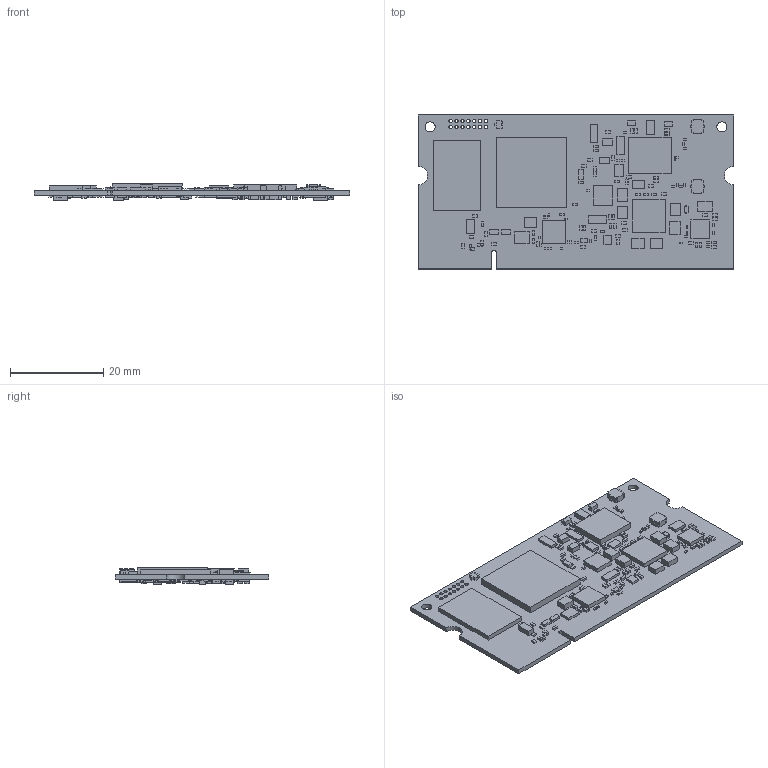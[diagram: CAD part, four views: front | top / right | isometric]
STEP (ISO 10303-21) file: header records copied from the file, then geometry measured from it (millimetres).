
FILE_DESCRIPTION(/* description */ (''),/* implementation_level */ '2;1');
FILE_NAME(/* name */ 'VAR-SOM-MX8MP-Rev2.0 v1.step',/* time_stamp */ '2024-08-19T17:37:12+03:00',/* author */ (''),/* organization */ (''),/* preprocessor_version */ 'ST-DEVELOPER v20',/* originating_system */ 'Autodesk Translation Framework v13.14.0.145',/* authorisation */ '');
FILE_SCHEMA (('AUTOMOTIVE_DESIGN { 1 0 10303 214 3 1 1 }'));
Products named in the file (434): VAR-SOM-MX8MP-Rev2.0; Pcb; Electrical; U30; U25; U28; Q7; Q5; Q4; Q2; Y2; Y1; J3; J2; L3; L2; L4; L7; L6; L8; L9; QZ1; TP5; C188; C187; U17; U19; U16; Q1; D2; D4; D6; D5; U11; U12; U8; RN7; RN1; RN5; RN4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
Assembly tree (433 placements, depth 3):
  VAR-SOM-MX8MP-Rev2.0
    Pcb
    Electrical
      U30
      U25
      U28
      Q7
      Q5
      Q4
      Q2
      Y2
      Y1
      J3
      J2
      L3
      L2
      L4
      L7
      L6
      L8
      L9
      QZ1
      TP5
      C188
      C187
      U17
      U19
      U16
      Q1
      D2
      D4
      D6
      D5
      U11
      U12
      U8
      RN7
      RN1
      RN5
      RN4
      RN8
      RN11
      RN12
      U14
      RN6
      RN9
      RN13
      RN14
      RN16
      RN17
      RN19
      U4
      U5
      C91
      C131
      C133
      C70
      C130
      C78
      C79
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Bounding box: 67.6 x 32.99 x 3.59 mm (x, y, z)
Volume: 3303.8 mm3; surface area: 7988.7 mm2
Topology: 395 solids, 395 shells, 2468 faces, 5034 edges, 3356 vertices
Faces by surface type: plane 2447, cylinder 21
Full cylindrical faces by diameter (mm): 0.711 x14, 1.006 x1, 2.159 x2
Entity records: 77278 total; most frequent: DIRECTION 11746, CARTESIAN_POINT 11725, ORIENTED_EDGE 10068, EDGE_CURVE 5034, LINE 4992, VECTOR 4992, AXIS2_PLACEMENT_3D 3377, VERTEX_POINT 3356
